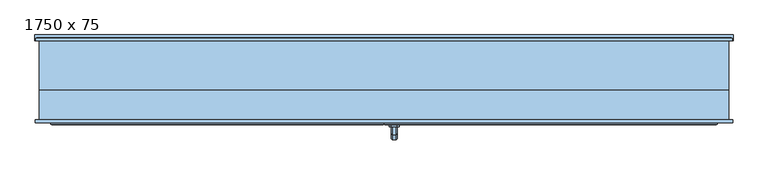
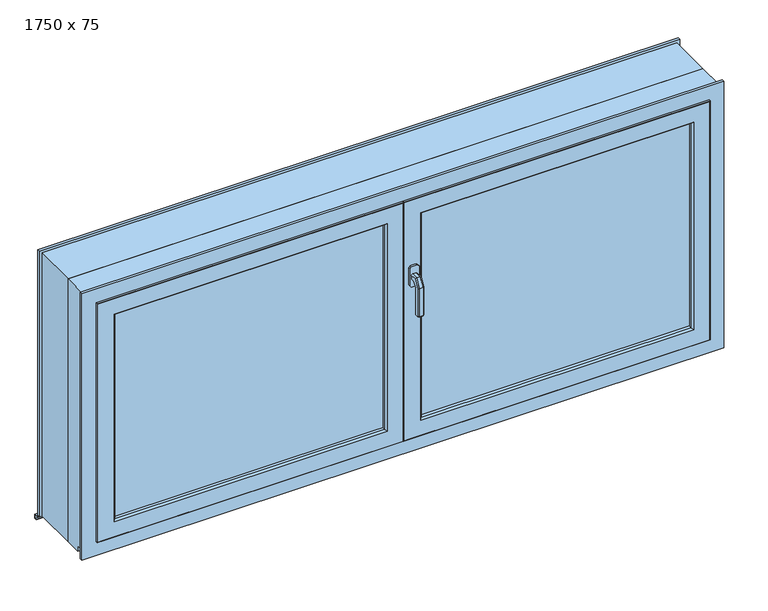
"""IFC4 building model written with IfcOpenShell, lengths in millimetres: window geometry, Fenêtre 2 Vantaux : 1750 x 75."""

from ifc_helpers import new_model, si_unit, frame, origin, place, context, project, spatial, polyline, outline, extrude, faceted_brep, source, transform, mapped, element, save


def window_1750_x_75_784b19aa(model_context):
    return source(origin(), model_context, "Body", "SolidModel", [
        faceted_brep([(30.9590356, -118.0471229, 1308.0), (33.9411255, -118.0471229, 1305.0179101), (33.9411255, -118.0471229, 1294.9820899), (30.9590356, -118.0471229, 1292.0), (20.9232154, -118.0471229, 1292.0), (17.9411255, -118.0471229, 1294.9820899), (17.9411255, -118.0471229, 1305.0179101), (20.9232154, -118.0471229, 1308.0), (30.9590356, -137.665925, 1308.0), (33.9411255, -135.9442146, 1305.0179101), (33.9411255, -148.065033, 1284.0240369), (33.9411255, -148.065033, 1201.9658946), (33.9411255, -138.0292127, 1201.9658946), (33.9411255, -138.0292127, 1281.334947), (33.9411255, -130.1500311, 1294.9820899), (30.9590356, -128.4283207, 1292.0), (20.9232154, -128.4283207, 1292.0), (17.9411255, -130.1500311, 1294.9820899), (17.9411255, -138.0292127, 1281.334947), (17.9411255, -138.0292127, 1201.9658946), (17.9411255, -148.065033, 1201.9658946), (17.9411255, -148.065033, 1284.0240369), (17.9411255, -135.9442146, 1305.0179101), (20.9232154, -137.665925, 1308.0), (30.9590356, -151.0471229, 1284.8230855), (30.9590356, -135.0471229, 1280.5358984), (20.9232154, -135.0471229, 1280.5358984), (20.9232154, -151.0471229, 1284.8230855), (21.7375155, -149.0812283, 1200.0), (19.90702, -147.2507328, 1200.0), (19.90702, -138.8435129, 1200.0), (21.7375155, -137.0130174, 1200.0), (30.1447355, -137.0130174, 1200.0), (31.9752309, -138.8435129, 1200.0), (31.9752309, -147.2507328, 1200.0), (30.1447355, -149.0812283, 1200.0), (30.9590356, -151.0471229, 1201.9658946), (30.9590356, -135.0471229, 1201.9658946), (20.9232154, -135.0471229, 1201.9658946), (20.9232154, -151.0471229, 1201.9658946)], [[[0, 1, 2, 3, 4, 5, 6, 7]], [[1, 0, 8, 9]], [[2, 1, 9, 10, 11, 12, 13, 14]], [[3, 2, 14, 15]], [[4, 3, 15, 16]], [[5, 4, 16, 17]], [[6, 5, 17, 18, 19, 20, 21, 22]], [[7, 6, 22, 23]], [[0, 7, 23, 8]], [[9, 8, 24, 10]], [[14, 13, 25, 15]], [[16, 15, 25, 26]], [[17, 16, 26, 18]], [[22, 21, 27, 23]], [[8, 23, 27, 24]], [[28, 29, 30, 31, 32, 33, 34, 35]], [[10, 24, 36, 11]], [[25, 13, 12, 37]], [[26, 25, 37, 38]], [[18, 26, 38, 19]], [[27, 21, 20, 39]], [[24, 27, 39, 36]], [[20, 29, 28, 39]], [[29, 20, 19, 30]], [[30, 19, 38, 31]], [[31, 38, 37, 32]], [[32, 37, 12, 33]], [[33, 12, 11, 34]], [[34, 11, 36, 35]], [[39, 28, 35, 36]]]),
        extrude(outline(polyline([(1270.0, 33.9411255), (1275.0, 38.9411255), (1325.0, 38.9411255), (1330.0, 33.9411255), (1330.0, 17.9411255), (1325.0, 12.9411255), (1275.0, 12.9411255), (1270.0, 17.9411255), (1270.0, 33.9411255)])), frame((0.0, -118.0471229, 0.0), z_axis=(0.0, 1.0, 0.0), x_axis=(0.0, 0.0, 1.0)), (0.0, 0.0, 1.0), 5.0),
        faceted_brep([(795.0, -74.0588745, 1470.0), (799.0588745, -70.0, 1474.0588745), (799.0588745, -70.0, 869.4411255), (795.0, -74.0588745, 873.5), (843.5, -70.0, 1518.5), (843.5, -70.0, 825.0), (1.5, -70.0, 825.0), (1.5, -70.0, 1518.5), (45.9411255, -70.0, 1474.0588745), (45.9411255, -70.0, 869.4411255), (50.0, -74.0588745, 873.5), (795.0, -83.5235614, 1470.0), (795.0, -83.5235614, 873.5), (50.0, -83.5235614, 873.5), (44.0, -83.5235614, 1476.0), (44.0, -83.5235614, 867.5), (801.0, -83.5235614, 867.5), (801.0, -83.5235614, 1476.0), (50.0, -83.5235614, 1470.0), (801.0, -99.5235614, 1476.0), (801.0, -99.5235614, 867.5), (44.0, -99.5235614, 867.5), (44.0, -99.5235614, 1476.0), (50.0, -99.5235614, 1470.0), (50.0, -99.5235614, 873.5), (795.0, -99.5235614, 873.5), (795.0, -99.5235614, 1470.0), (795.0, -108.9882484, 1470.0), (795.0, -108.9882484, 873.5), (50.0, -108.9882484, 873.5), (799.0588745, -113.0471229, 1474.0588745), (799.0588745, -113.0471229, 869.4411255), (45.9411255, -113.0471229, 869.4411255), (1.5, -113.0471229, 1518.5), (1.5, -113.0471229, 825.0), (843.5, -113.0471229, 825.0), (843.5, -113.0471229, 1518.5), (45.9411255, -113.0471229, 1474.0588745), (845.0, -71.5, 1520.0), (845.0, -111.5471229, 1520.0), (845.0, -111.5471229, 823.5), (845.0, -71.5, 823.5), (0.0, -111.5471229, 823.5), (0.0, -71.5, 823.5), (50.0, -74.0588745, 1470.0), (50.0, -108.9882484, 1470.0), (0.0, -111.5471229, 1520.0), (0.0, -71.5, 1520.0)], [[[0, 1, 2, 3]], [[4, 5, 6, 7], [8, 9, 2, 1]], [[3, 2, 9, 10]], [[11, 0, 3, 12]], [[12, 3, 10, 13]], [[14, 15, 16, 17], [11, 12, 13, 18]], [[19, 17, 16, 20]], [[20, 16, 15, 21]], [[19, 20, 21, 22], [23, 24, 25, 26]], [[27, 26, 25, 28]], [[28, 25, 24, 29]], [[30, 27, 28, 31]], [[31, 28, 29, 32]], [[33, 34, 35, 36], [30, 31, 32, 37]], [[38, 39, 40, 41]], [[39, 36, 35, 40]], [[41, 40, 42, 43]], [[4, 38, 41, 5]], [[10, 9, 8, 44]], [[13, 10, 44, 18]], [[21, 15, 14, 22]], [[29, 24, 23, 45]], [[32, 29, 45, 37]], [[40, 35, 34, 42]], [[43, 42, 46, 47]], [[5, 41, 43, 6]], [[6, 43, 47, 7]], [[42, 34, 33, 46]], [[44, 8, 1, 0]], [[18, 44, 0, 11]], [[22, 14, 17, 19]], [[45, 23, 26, 27]], [[37, 45, 27, 30]], [[47, 46, 39, 38]], [[7, 47, 38, 4]], [[46, 33, 36, 39]]]),
        faceted_brep([(-850.6755267, -20.0, 813.8687943), (-850.6755267, -20.0, 795.0), (-850.6755267, -22.0, 795.0), (-850.6755267, -22.0, 800.0), (-850.6755267, -25.0, 800.0), (-850.6755267, -25.0, 814.2950679), (850.6755267, -20.0, 813.8687943), (850.6755267, -20.0, 795.0), (850.6755267, -22.0, 795.0), (850.6755267, -22.0, 800.0), (850.6755267, -25.0, 800.0), (850.0, -25.6755267, 800.0), (850.0, -60.0, 800.0), (835.0, -60.0, 800.0), (835.0, -70.0, 800.0), (875.0, -70.0, 800.0), (875.0, -100.0, 800.0), (-875.0, -100.0, 800.0), (-875.0, -70.0, 800.0), (-835.0, -70.0, 800.0), (-835.0, -60.0, 800.0), (-850.0, -60.0, 800.0), (-850.0, -25.6755267, 800.0), (-850.6755267, -25.0, 783.5), (-875.0, -25.0, 783.5), (-875.0, -25.0, 1550.0), (875.0, -25.0, 1550.0), (875.0, -25.0, 783.5), (850.6755267, -25.0, 783.5), (850.6755267, -25.0, 814.2950679), (850.6755267, -25.0, 1525.6755267), (-850.6755267, -25.0, 1525.6755267), (-850.0, -25.6755267, 814.3526597), (-850.0, -60.0, 817.278983), (850.0, -60.0, 817.278983), (850.0, -25.6755267, 814.3526597), (-885.0, -100.0, 783.5), (-885.0, -100.0, 1560.0), (885.0, -100.0, 1560.0), (885.0, -100.0, 783.5), (875.0, -100.0, 1550.0), (-875.0, -100.0, 1550.0), (-885.0, -108.0, 783.5), (-885.0, -108.0, 1560.0), (885.0, -108.0, 1560.0), (885.0, -108.0, 783.5), (875.0, -70.0, 783.5), (835.0, -70.0, 783.5), (835.0, -60.0, 783.5), (850.0, -60.0, 783.5), (850.0, -25.6755267, 783.5), (-850.0, -25.6755267, 783.5), (-850.0, -60.0, 783.5), (-835.0, -60.0, 783.5), (-835.0, -70.0, 783.5), (-875.0, -70.0, 783.5), (-845.0, -108.0, 1520.0), (845.0, -108.0, 1520.0), (845.0, -108.0, 823.5), (-845.0, -108.0, 823.5), (845.0, -70.0, 1520.0), (845.0, -70.0, 823.5), (-845.0, -70.0, 823.5), (-845.0, -70.0, 1520.0), (-835.0, -70.0, 1510.0), (835.0, -70.0, 1510.0), (835.0, -70.0, 833.5), (-835.0, -70.0, 833.5), (835.0, -60.0, 1510.0), (835.0, -60.0, 833.5), (-835.0, -60.0, 833.5), (-835.0, -60.0, 1510.0), (-850.0, -60.0, 1525.0), (850.0, -60.0, 1525.0), (-850.0, -25.6755267, 1525.0), (850.0, -25.6755267, 1525.0)], [[[0, 1, 2, 3, 4, 5]], [[1, 0, 6, 7]], [[2, 1, 7, 8]], [[3, 2, 8, 9]], [[3, 9, 10, 11, 12, 13, 14, 15, 16, 17, 18, 19, 20, 21, 22, 4]], [[23, 24, 25, 26, 27, 28, 10, 29, 30, 31, 5, 4]], [[6, 0, 5, 32, 33, 34, 35, 29]], [[9, 8, 7, 6, 29, 10]], [[36, 37, 38, 39], [16, 40, 41, 17]], [[36, 42, 43, 37]], [[39, 38, 44, 45]], [[28, 27, 46, 47, 48, 49, 50]], [[42, 36, 39, 45]], [[23, 51, 52, 53, 54, 55, 24]], [[27, 26, 40, 16, 15, 46]], [[41, 25, 24, 55, 18, 17]], [[45, 44, 43, 42], [56, 57, 58, 59]], [[57, 60, 61, 58]], [[59, 58, 61, 62]], [[63, 56, 59, 62]], [[46, 15, 14, 47]], [[54, 19, 18, 55]], [[60, 63, 62, 61], [64, 65, 66, 67]], [[48, 47, 14, 13]], [[65, 68, 69, 66]], [[67, 66, 69, 70]], [[54, 53, 20, 19]], [[71, 64, 67, 70]], [[53, 52, 21, 20]], [[49, 48, 13, 12]], [[72, 73, 34, 33], [68, 71, 70, 69]], [[52, 51, 22, 21]], [[74, 72, 33, 32]], [[50, 49, 12, 11]], [[73, 75, 35, 34]], [[51, 23, 4, 22]], [[31, 74, 32, 5]], [[28, 50, 11, 10]], [[75, 30, 29, 35]], [[25, 41, 40, 26]], [[72, 74, 75, 73]], [[71, 68, 65, 64]], [[63, 60, 57, 56]], [[38, 37, 43, 44]], [[31, 30, 75, 74]]]),
        extrude(outline(polyline([(-801.0, -83.5), (-44.0, -83.5), (-44.0, -99.5), (-801.0, -99.5), (-801.0, -83.5)])), frame((0.0, 0.0, 867.5), z_axis=(0.0, 0.0, 1.0), x_axis=(1.0, 0.0, 0.0)), (0.0, 0.0, 1.0), 608.5),
        extrude(outline(polyline([(44.0, -83.5), (801.0, -83.5), (801.0, -99.5), (44.0, -99.5), (44.0, -83.5)])), frame((0.0, 0.0, 867.5), z_axis=(0.0, 0.0, 1.0), x_axis=(1.0, 0.0, 0.0)), (0.0, 0.0, 1.0), 608.5),
        faceted_brep([(0.0, -71.5, 1520.0), (0.0, -111.5471229, 1520.0), (0.0, -111.5471229, 823.5), (0.0, -71.5, 823.5), (-1.5, -113.0471229, 1518.5), (-1.5, -113.0471229, 825.0), (-845.0, -111.5471229, 823.5), (-845.0, -71.5, 823.5), (-1.5, -70.0, 1518.5), (-1.5, -70.0, 825.0), (-45.9411255, -113.0471229, 1474.0588745), (-50.0, -108.9882484, 1470.0), (-50.0, -108.9882484, 873.5), (-45.9411255, -113.0471229, 869.4411255), (-50.0, -99.5235614, 1470.0), (-50.0, -99.5235614, 873.5), (-795.0, -108.9882484, 873.5), (-799.0588745, -113.0471229, 869.4411255), (-843.5, -113.0471229, 1518.5), (-843.5, -113.0471229, 825.0), (-799.0588745, -113.0471229, 1474.0588745), (-44.0, -99.5235614, 867.5), (-801.0, -99.5235614, 867.5), (-801.0, -99.5235614, 1476.0), (-44.0, -99.5235614, 1476.0), (-795.0, -99.5235614, 1470.0), (-795.0, -99.5235614, 873.5), (-44.0, -83.5235614, 1476.0), (-44.0, -83.5235614, 867.5), (-801.0, -83.5235614, 1476.0), (-801.0, -83.5235614, 867.5), (-50.0, -83.5235614, 873.5), (-795.0, -83.5235614, 873.5), (-795.0, -83.5235614, 1470.0), (-50.0, -83.5235614, 1470.0), (-50.0, -74.0588745, 1470.0), (-50.0, -74.0588745, 873.5), (-45.9411255, -70.0, 1474.0588745), (-45.9411255, -70.0, 869.4411255), (-795.0, -74.0588745, 873.5), (-843.5, -70.0, 825.0), (-843.5, -70.0, 1518.5), (-799.0588745, -70.0, 1474.0588745), (-799.0588745, -70.0, 869.4411255), (-845.0, -111.5471229, 1520.0), (-845.0, -71.5, 1520.0), (-795.0, -108.9882484, 1470.0), (-795.0, -74.0588745, 1470.0)], [[[0, 1, 2, 3]], [[1, 4, 5, 2]], [[3, 2, 6, 7]], [[8, 0, 3, 9]], [[10, 11, 12, 13]], [[11, 14, 15, 12]], [[13, 12, 16, 17]], [[4, 18, 19, 5], [13, 17, 20, 10]], [[21, 22, 23, 24], [14, 25, 26, 15]], [[12, 15, 26, 16]], [[24, 27, 28, 21]], [[27, 29, 30, 28], [31, 32, 33, 34]], [[21, 28, 30, 22]], [[34, 35, 36, 31]], [[35, 37, 38, 36]], [[31, 36, 39, 32]], [[9, 40, 41, 8], [37, 42, 43, 38]], [[36, 38, 43, 39]], [[2, 5, 19, 6]], [[7, 6, 44, 45]], [[9, 3, 7, 40]], [[17, 16, 46, 20]], [[16, 26, 25, 46]], [[22, 30, 29, 23]], [[32, 39, 47, 33]], [[39, 43, 42, 47]], [[6, 19, 18, 44]], [[40, 7, 45, 41]], [[47, 42, 37, 35]], [[33, 47, 35, 34]], [[23, 29, 27, 24]], [[46, 25, 14, 11]], [[20, 46, 11, 10]], [[45, 44, 1, 0]], [[41, 45, 0, 8]], [[44, 18, 4, 1]]]),
        faceted_brep([(885.6755267, 100.0, 784.4799209), (885.6755267, 100.0, 782.9767442), (885.6755267, 113.5, 782.0976744), (885.6755267, 113.5, 772.5), (885.6755267, 108.5, 772.5), (885.6755267, 108.5, 771.0), (885.6755267, 115.0, 771.0), (885.6755267, 115.0, 783.5031767), (883.0, 100.0, 784.4799209), (883.0, 100.0, 1558.0), (-883.0, 100.0, 1558.0), (-883.0, 100.0, 784.4799209), (-885.6755267, 100.0, 784.4799209), (-885.6755267, 100.0, 782.9767442), (-850.6755267, 100.0, 782.9767442), (-850.6755267, 100.0, 783.5), (-875.0, 100.0, 783.5), (-875.0, 100.0, 1550.0), (875.0, 100.0, 1550.0), (875.0, 100.0, 783.5), (850.6755267, 100.0, 783.5), (850.6755267, 100.0, 782.9767442), (850.6755267, 91.9642857, 783.5), (850.6755267, -25.0, 791.1162791), (850.6755267, -35.0, 791.7674419), (-850.6755267, -35.0, 791.7674419), (-850.6755267, -25.0, 791.1162791), (-850.6755267, 91.9642857, 783.5), (-885.6755267, 113.5, 782.0976744), (-885.6755267, 113.5, 772.5), (-885.6755267, 108.5, 772.5), (-885.6755267, 108.5, 771.0), (-885.6755267, 115.0, 771.0), (-885.6755267, 115.0, 783.5031767), (-883.0, 106.1421356, 784.0799679), (-881.1421356, 108.0, 783.9589907), (-853.8578644, 108.0, 783.9589907), (-850.6755267, 104.8176624, 784.1662127), (-850.6755267, 100.0, 784.4799209), (-850.6755267, -25.0, 792.6194558), (-850.6755267, -33.5, 793.1729442), (850.6755267, -33.5, 793.1729442), (850.6755267, -25.0, 792.6194558), (850.6755267, 100.0, 784.4799209), (850.6755267, 104.8176624, 784.1662127), (853.8578644, 108.0, 783.9589907), (881.1421356, 108.0, 783.9589907), (883.0, 106.1421356, 784.0799679), (883.0, 106.1421356, 1558.0), (-883.0, 106.1421356, 1558.0), (-850.6755267, -35.0, 797.4781943), (-850.6755267, -33.5, 797.4781943), (-850.6755267, -25.0, 783.5), (-875.0, -25.0, 783.5), (-875.0, -25.0, 1550.0), (875.0, -25.0, 1550.0), (875.0, -25.0, 783.5), (850.6755267, -25.0, 783.5), (850.6755267, -33.5, 797.4781943), (850.6755267, -35.0, 797.4781943), (850.6755267, -25.0, 1525.6755267), (850.6755267, 104.8176624, 1525.6755267), (-850.6755267, 104.8176624, 1525.6755267), (-850.6755267, -25.0, 1525.6755267), (-881.1421356, 108.0, 1556.1421356), (881.1421356, 108.0, 1556.1421356), (853.8578644, 108.0, 1528.8578644), (-853.8578644, 108.0, 1528.8578644)], [[[0, 1, 2, 3, 4, 5, 6, 7]], [[1, 0, 8, 9, 10, 11, 12, 13, 14, 15, 16, 17, 18, 19, 20, 21]], [[2, 1, 21, 22, 23, 24, 25, 26, 27, 14, 13, 28]], [[3, 2, 28, 29]], [[4, 3, 29, 30]], [[5, 4, 30, 31]], [[6, 5, 31, 32]], [[7, 6, 32, 33]], [[0, 7, 33, 12, 11, 34, 35, 36, 37, 38, 39, 40, 41, 42, 43, 44, 45, 46, 47, 8]], [[48, 9, 8, 47]], [[10, 49, 34, 11]], [[33, 32, 31, 30, 29, 28, 13, 12]], [[15, 14, 27]], [[25, 50, 51, 40, 39, 26]], [[52, 53, 16, 15, 27]], [[17, 16, 53, 54]], [[55, 56, 19, 18]], [[56, 57, 22, 20, 19]], [[21, 20, 22]], [[41, 58, 59, 24, 23, 42]], [[57, 23, 22]], [[60, 61, 44, 43, 42]], [[50, 25, 24, 59]], [[52, 27, 26]], [[62, 63, 39, 38, 37]], [[49, 64, 35, 34]], [[64, 65, 46, 45, 66, 67, 36, 35]], [[67, 62, 37, 36]], [[40, 51, 58, 41]], [[61, 66, 45, 44]], [[65, 48, 47, 46]], [[51, 50, 59, 58]], [[53, 52, 26, 39, 63, 60, 42, 23, 57, 56, 55, 54]], [[54, 55, 18, 17]], [[10, 9, 48, 49]], [[64, 49, 48, 65]], [[67, 66, 61, 62]], [[60, 63, 62, 61]]]),
        extrude(outline(polyline([(-35.0, 800.0), (-35.0, 791.7674419), (60.0, 785.5813953), (60.0, 765.0), (-70.0, 765.0), (-70.0, 800.0), (-35.0, 800.0)])), frame((-850.6755267, 0.0, 0.0), z_axis=(1.0, 0.0, 0.0), x_axis=(0.0, 1.0, 0.0)), (0.0, 0.0, 1.0), 1701.3510535),
    ])


if __name__ == "__main__":
    model = new_model("IFC4")
    model_context = context("Model", 3, world=origin())
    ifc_project = project(units=[si_unit("LENGTHUNIT", "METRE", prefix="MILLI")], contexts=[model_context])
    site = spatial("IfcSite", under=ifc_project)
    building = spatial("IfcBuilding", under=site)
    placement = place(None, origin())
    window_1750_x_75_shape = window_1750_x_75_784b19aa(model_context)
    element("IfcWindow", 1, ObjectType="Fenêtre 2 Vantaux : 1750 x 75", at=placement, inside=building, context=model_context, shape_type="MappedRepresentation", body=[
        mapped(window_1750_x_75_shape, transform((0.0, 0.0, 0.0), x_axis=(1.0, 0.0, 0.0), y_axis=(0.0, 1.0, 0.0), z_axis=(0.0, 0.0, 1.0))),
    ])
    save(model, "model.ifc")
